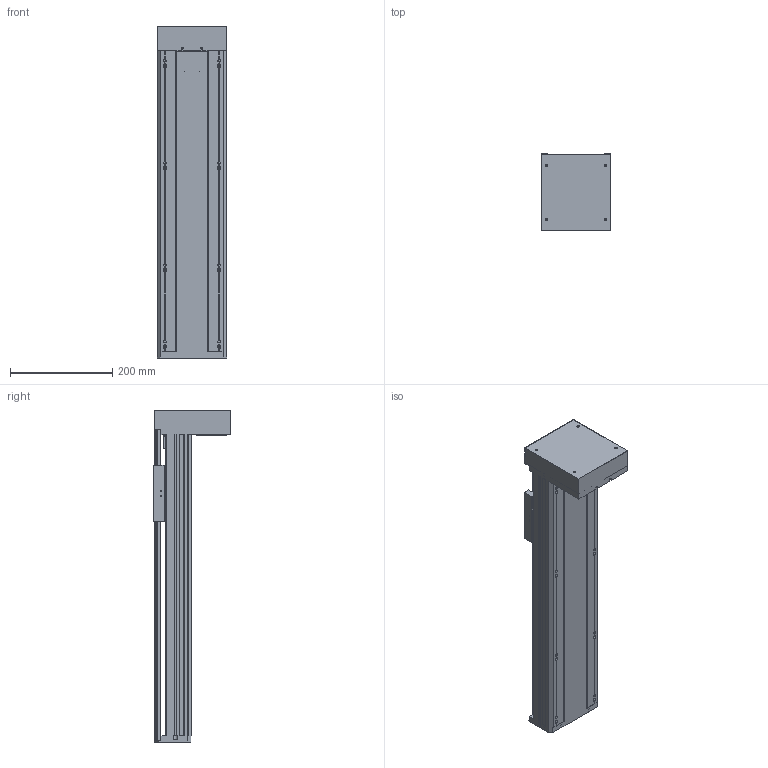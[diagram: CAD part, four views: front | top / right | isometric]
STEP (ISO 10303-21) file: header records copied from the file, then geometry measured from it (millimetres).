
FILE_DESCRIPTION(/* description */ (''),/* implementation_level */ '2;1');
FILE_NAME(/* name */ 'TKA136-FD-400_asm1.stp',/* time_stamp */ '2016-05-07T09:20:15+08:00',/* author */ (''),/* organization */ (''),/* preprocessor_version */ 'ST-DEVELOPER v15',/* originating_system */ 'SIEMENS PLM Software NX 8.5',/* authorisation */ '');
FILE_SCHEMA (('AUTOMOTIVE_DESIGN { 1 0 10303 214 3 1 1 1 }'));
Length unit declared in the file: millimetre
Products named in the file (3): 100-02; 100-01; TKA136-FD-400_asm1
Assembly tree (2 placements, depth 2):
  TKA136-FD-400_asm1
    100-01
    100-02
Bounding box: 136 x 152 x 650 mm (x, y, z)
Volume: 2237529.6 mm3; surface area: 867214.1 mm2
Topology: 2 solids, 13 shells, 912 faces, 2515 edges, 1619 vertices
Faces by surface type: cylinder 427, plane 420, cone 65
Full cylindrical faces by diameter (mm): 3 x2, 3.3 x13, 4 x4, 4.2 x8, 4.5 x14, 5 x8, 5.5 x26, 6.6 x12, 8 x12, 10 x9, 10.5 x8, 11 x4, 11.6 x1, 12 x9, 15 x3, 16 x5, 17 x1, 24 x5, 26 x1, 28 x1, 46 x1, 50 x2
Entity records: 30282 total; most frequent: CARTESIAN_POINT 7724, DIRECTION 4750, ORIENTED_EDGE 4426, EDGE_CURVE 2213, AXIS2_PLACEMENT_3D 1795, VERTEX_POINT 1536, EDGE_LOOP 1282, LINE 1160
